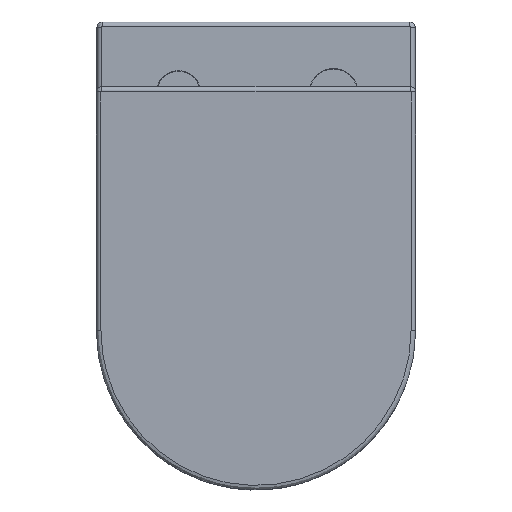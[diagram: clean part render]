
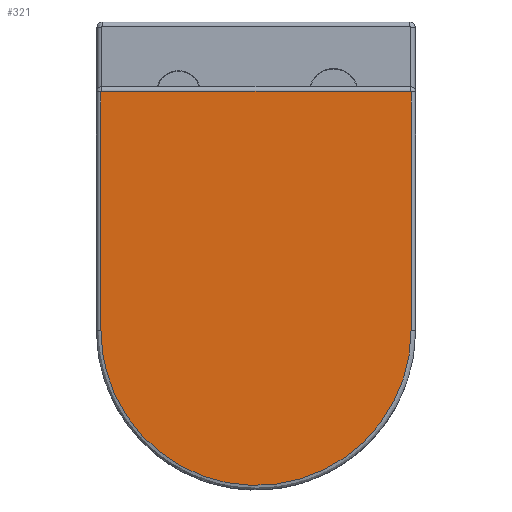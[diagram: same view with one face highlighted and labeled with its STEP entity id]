
A CAD part, top view. The second image highlights one B-rep face of the part: STEP entity #321.
In plain terms, the highlighted planar face has unit normal (0, -0.013, 1) as drawn and (0, 1, 0.013) by its records, which use the part's own axes.
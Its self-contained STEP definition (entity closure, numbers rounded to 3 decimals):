
#321=ADVANCED_FACE('',(#710),#6312,.T.);
#710=FACE_OUTER_BOUND('',#1116,.T.);
#1116=EDGE_LOOP('',(#2465,#2466,#2467,#2468,#2469,#2470));
#2465=ORIENTED_EDGE('',*,*,#3763,.F.);
#2466=ORIENTED_EDGE('',*,*,#3766,.F.);
#2467=ORIENTED_EDGE('',*,*,#3758,.F.);
#2468=ORIENTED_EDGE('',*,*,#3765,.F.);
#2469=ORIENTED_EDGE('',*,*,#3747,.F.);
#2470=ORIENTED_EDGE('',*,*,#3764,.F.);
#3747=EDGE_CURVE('',#5804,#5806,#5244,.T.);
#3758=EDGE_CURVE('',#5808,#5810,#5252,.T.);
#3763=EDGE_CURVE('',#5811,#5805,#5255,.T.);
#3764=EDGE_CURVE('',#5805,#5804,#5256,.T.);
#3765=EDGE_CURVE('',#5806,#5808,#5257,.T.);
#3766=EDGE_CURVE('',#5810,#5811,#5258,.T.);
#5244=B_SPLINE_CURVE_WITH_KNOTS('',1,(#27188,#27189),.UNSPECIFIED.,.F.,
 .F.,(2,2),(-269.023,0.),.UNSPECIFIED.);
#5252=B_SPLINE_CURVE_WITH_KNOTS('',1,(#27234,#27235),.UNSPECIFIED.,.F.,
 .F.,(2,2),(-348.,0.),.UNSPECIFIED.);
#5255=B_SPLINE_CURVE_WITH_KNOTS('',1,(#27253,#27254),.UNSPECIFIED.,.F.,
 .F.,(2,2),(-269.023,0.),.UNSPECIFIED.);
#5256=B_SPLINE_CURVE_WITH_KNOTS('',3,(#27255,#27256,#27257,#27258,#27259,
#27260,#27261,#27262,#27263,#27264,#27265,#27266,#27267,#27268,#27269,#27270,
#27271,#27272,#27273,#27274,#27275,#27276,#27277,#27278,#27279,#27280,#27281,
#27282,#27283,#27284,#27285,#27286,#27287,#27288,#27289,#27290,#27291,#27292,
#27293,#27294,#27295,#27296,#27297,#27298),.UNSPECIFIED.,.F.,.F.,(4,1,1,
1,1,1,1,1,1,1,1,1,1,1,1,1,1,1,1,1,1,1,1,1,1,1,1,1,1,1,1,1,1,1,1,1,1,1,1,
1,1,4),(0.,13.419,26.839,40.258,53.678,
67.097,80.517,93.936,107.356,120.775,
134.194,147.614,161.033,174.453,187.872,
201.292,214.711,228.131,241.55,254.969,
268.389,281.808,295.228,308.647,322.067,
335.486,348.905,362.325,375.744,389.164,
402.583,416.003,429.422,442.842,456.261,
469.68,483.1,496.519,509.939,523.358,
536.778,550.197),.UNSPECIFIED.);
#5257=B_SPLINE_CURVE_WITH_KNOTS('',3,(#27299,#27300,#27301,#27302,#27303,
#27304,#27305,#27306,#27307),.UNSPECIFIED.,.F.,.F.,(4,1,1,1,1,1,4),(0.,
0.264,0.528,0.791,1.055,
1.319,1.583),.UNSPECIFIED.);
#5258=B_SPLINE_CURVE_WITH_KNOTS('',3,(#27308,#27309,#27310,#27311,#27312,
#27313,#27314,#27315,#27316),.UNSPECIFIED.,.F.,.F.,(4,1,1,1,1,1,4),(0.,
0.264,0.528,0.791,1.055,
1.319,1.583),.UNSPECIFIED.);
#5804=VERTEX_POINT('',#26983);
#5805=VERTEX_POINT('',#26984);
#5806=VERTEX_POINT('',#26985);
#5808=VERTEX_POINT('',#26987);
#5810=VERTEX_POINT('',#26989);
#5811=VERTEX_POINT('',#26990);
#6312=PLANE('',#7439);
#7439=AXIS2_PLACEMENT_3D('',#25809,#8276,$);
#8276=DIRECTION('',(0.,1.,0.013));
#25809=CARTESIAN_POINT('',(-210.766,7.466,267.979));
#26983=CARTESIAN_POINT('',(-175.,10.373,47.566));
#26984=CARTESIAN_POINT('',(175.,10.373,47.566));
#26985=CARTESIAN_POINT('',(-175.,13.92,-221.434));
#26987=CARTESIAN_POINT('',(-174.,13.933,-222.434));
#26989=CARTESIAN_POINT('',(174.,13.933,-222.434));
#26990=CARTESIAN_POINT('',(175.,13.92,-221.434));
#27188=CARTESIAN_POINT('',(-175.,10.373,47.566));
#27189=CARTESIAN_POINT('',(-175.,13.92,-221.434));
#27234=CARTESIAN_POINT('',(-174.,13.933,-222.434));
#27235=CARTESIAN_POINT('',(174.,13.933,-222.434));
#27253=CARTESIAN_POINT('',(175.,13.92,-221.434));
#27254=CARTESIAN_POINT('',(175.,10.373,47.566));
#27255=CARTESIAN_POINT('',(175.,10.373,47.566));
#27256=CARTESIAN_POINT('',(175.,10.312,52.185));
#27257=CARTESIAN_POINT('',(174.627,10.192,61.26));
#27258=CARTESIAN_POINT('',(173.154,10.024,73.995));
#27259=CARTESIAN_POINT('',(170.672,9.853,87.002));
#27260=CARTESIAN_POINT('',(167.2,9.684,99.794));
#27261=CARTESIAN_POINT('',(162.745,9.518,112.36));
#27262=CARTESIAN_POINT('',(157.355,9.358,124.529));
#27263=CARTESIAN_POINT('',(151.065,9.203,136.241));
#27264=CARTESIAN_POINT('',(143.904,9.056,147.443));
#27265=CARTESIAN_POINT('',(135.914,8.916,158.07));
#27266=CARTESIAN_POINT('',(127.143,8.784,168.058));
#27267=CARTESIAN_POINT('',(117.642,8.661,177.351));
#27268=CARTESIAN_POINT('',(107.463,8.549,185.897));
#27269=CARTESIAN_POINT('',(96.668,8.446,193.645));
#27270=CARTESIAN_POINT('',(85.318,8.355,200.552));
#27271=CARTESIAN_POINT('',(73.478,8.276,206.578));
#27272=CARTESIAN_POINT('',(61.217,8.209,211.689));
#27273=CARTESIAN_POINT('',(48.604,8.154,215.856));
#27274=CARTESIAN_POINT('',(35.711,8.111,219.055));
#27275=CARTESIAN_POINT('',(22.612,8.082,221.268));
#27276=CARTESIAN_POINT('',(9.383,8.066,222.482));
#27277=CARTESIAN_POINT('',(-3.9,8.063,222.69));
#27278=CARTESIAN_POINT('',(-17.161,8.074,221.891));
#27279=CARTESIAN_POINT('',(-30.323,8.098,220.089));
#27280=CARTESIAN_POINT('',(-43.311,8.135,217.295));
#27281=CARTESIAN_POINT('',(-56.05,8.184,213.524));
#27282=CARTESIAN_POINT('',(-68.466,8.247,208.799));
#27283=CARTESIAN_POINT('',(-80.488,8.321,203.147));
#27284=CARTESIAN_POINT('',(-92.048,8.407,196.599));
#27285=CARTESIAN_POINT('',(-103.081,8.505,189.193));
#27286=CARTESIAN_POINT('',(-113.521,8.614,180.971));
#27287=CARTESIAN_POINT('',(-123.309,8.732,171.979));
#27288=CARTESIAN_POINT('',(-132.388,8.86,162.271));
#27289=CARTESIAN_POINT('',(-140.706,8.997,151.9));
#27290=CARTESIAN_POINT('',(-148.214,9.142,140.929));
#27291=CARTESIAN_POINT('',(-154.871,9.293,129.411));
#27292=CARTESIAN_POINT('',(-160.625,9.451,117.452));
#27293=CARTESIAN_POINT('',(-165.484,9.615,105.));
#27294=CARTESIAN_POINT('',(-169.337,9.782,92.377));
#27295=CARTESIAN_POINT('',(-172.291,9.955,79.258));
#27296=CARTESIAN_POINT('',(-174.386,10.146,64.776));
#27297=CARTESIAN_POINT('',(-175.,10.294,53.53));
#27298=CARTESIAN_POINT('',(-175.,10.373,47.566));
#27299=CARTESIAN_POINT('',(-175.,13.92,-221.434));
#27300=CARTESIAN_POINT('',(-175.,13.921,-221.537));
#27301=CARTESIAN_POINT('',(-174.97,13.924,-221.731));
#27302=CARTESIAN_POINT('',(-174.843,13.927,-221.996));
#27303=CARTESIAN_POINT('',(-174.664,13.93,-222.195));
#27304=CARTESIAN_POINT('',(-174.474,13.932,-222.324));
#27305=CARTESIAN_POINT('',(-174.264,13.933,-222.408));
#27306=CARTESIAN_POINT('',(-174.092,13.933,-222.434));
#27307=CARTESIAN_POINT('',(-174.,13.933,-222.434));
#27308=CARTESIAN_POINT('',(174.,13.933,-222.434));
#27309=CARTESIAN_POINT('',(174.103,13.933,-222.434));
#27310=CARTESIAN_POINT('',(174.297,13.933,-222.404));
#27311=CARTESIAN_POINT('',(174.562,13.931,-222.277));
#27312=CARTESIAN_POINT('',(174.761,13.929,-222.098));
#27313=CARTESIAN_POINT('',(174.89,13.926,-221.908));
#27314=CARTESIAN_POINT('',(174.974,13.923,-221.698));
#27315=CARTESIAN_POINT('',(175.,13.921,-221.527));
#27316=CARTESIAN_POINT('',(175.,13.92,-221.434));
